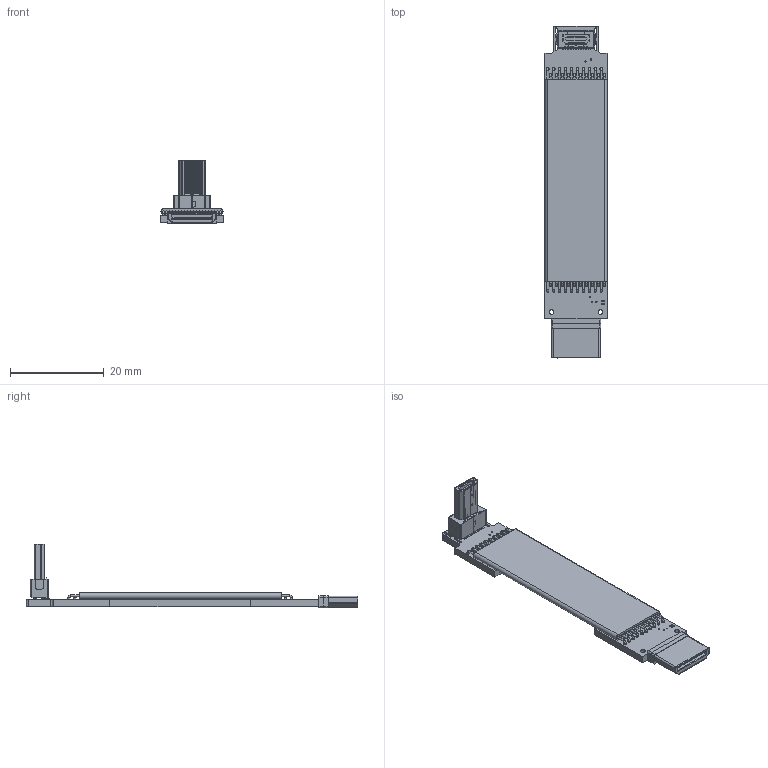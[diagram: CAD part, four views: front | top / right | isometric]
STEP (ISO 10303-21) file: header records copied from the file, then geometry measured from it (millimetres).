
FILE_DESCRIPTION(('Open CASCADE Model'),'2;1');
FILE_NAME('Open CASCADE Shape Model','2022-06-09T22:45:50',('Author'),( 'Open CASCADE'),'Open CASCADE STEP processor 6.8','Open CASCADE 6.8' ,'Unknown');
FILE_SCHEMA(('AUTOMOTIVE_DESIGN { 1 0 10303 214 1 1 1 1 }'));
Length unit declared in the file: millimetre
Products named in the file (71): PCB; Board; Open CASCADE STEP translator 6.8 3.1.1; _1; HDMI_MICRO_D(M)_9p俔殏(1); Open CASCADE STEP translator 6.8 3.3; miniHDMI-p_RGB10275833; HDMI_type_C1; Free-Models; cable20-A1A1
Assembly tree (71 placements, depth 3):
  PCB
    Board
      Open CASCADE STEP translator 6.8 3.1.1
    _1
      HDMI_MICRO_D(M)_9p俔殏(1)
      HDMI_MICRO_D(M)_9p俔殏(1)
      HDMI_MICRO_D(M)_9p俔殏(1)
      HDMI_MICRO_D(M)_9p俔殏(1)
      HDMI_MICRO_D(M)_9p俔殏(1)
      HDMI_MICRO_D(M)_9p俔殏(1)
      HDMI_MICRO_D(M)_9p俔殏(1)
      HDMI_MICRO_D(M)_9p俔殏(1)
      HDMI_MICRO_D(M)_9p俔殏(1)
      HDMI_MICRO_D(M)_9p俔殏(1)
      HDMI_MICRO_D(M)_9p俔殏(1)
      HDMI_MICRO_D(M)_9p俔殏(1)
      HDMI_MICRO_D(M)_9p俔殏(1)
      HDMI_MICRO_D(M)_9p俔殏(1)
      HDMI_MICRO_D(M)_9p俔殏(1)
      HDMI_MICRO_D(M)_9p俔殏(1)
      HDMI_MICRO_D(M)_9p俔殏(1)
      HDMI_MICRO_D(M)_9p俔殏(1)
      HDMI_MICRO_D(M)_9p俔殏(1)
      HDMI_MICRO_D(M)_9p俔殏(1)
      HDMI_MICRO_D(M)_9p俔殏(1)
      HDMI_MICRO_D(M)_9p俔殏(1)
    Open CASCADE STEP translator 6.8 3.3
      miniHDMI-p_RGB10275833  x2
      HDMI_type_C1
    Free-Models
      cable20-A1A1
      cable20-A1A1
      cable20-A1A1
      cable20-A1A1
      cable20-A1A1
      cable20-A1A1
      cable20-A1A1
      cable20-A1A1
      cable20-A1A1
      cable20-A1A1
      cable20-A1A1
      cable20-A1A1
      cable20-A1A1
      cable20-A1A1
      cable20-A1A1
      cable20-A1A1
      cable20-A1A1
      cable20-A1A1
      cable20-A1A1
      cable20-A1A1
      cable20-A1A1
      cable20-A1A1
      cable20-A1A1
      cable20-A1A1
      cable20-A1A1
      cable20-A1A1
      cable20-A1A1
      cable20-A1A1
      cable20-A1A1
      cable20-A1A1
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Bounding box: 13.4 x 70.65 x 13.46 mm (x, y, z)
Volume: 1659.2 mm3; surface area: 5089.2 mm2
Topology: 67 solids, 67 shells, 929 faces, 2289 edges, 1494 vertices
Faces by surface type: plane 602, cylinder 277, torus 46, extrusion 4
Full cylindrical faces by diameter (mm): 0.254 x10, 0.38 x10, 0.4 x100, 0.55 x20, 0.6 x20
Entity records: 36130 total; most frequent: CARTESIAN_POINT 5110, DIRECTION 4653, ORIENTED_EDGE 4530, EDGE_CURVE 2265, VECTOR 1563, LINE 1559, AXIS2_PLACEMENT_3D 1545, VERTEX_POINT 1478
